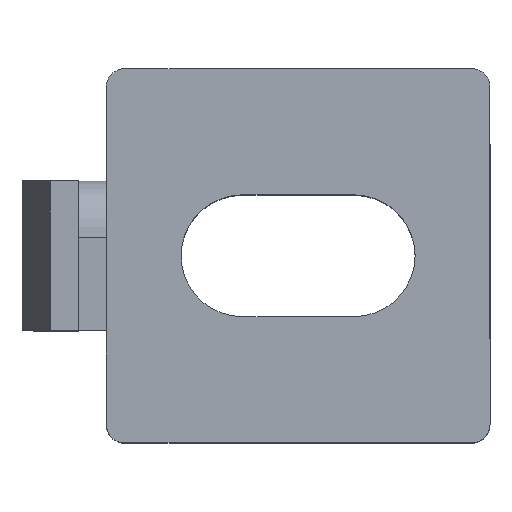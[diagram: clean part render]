
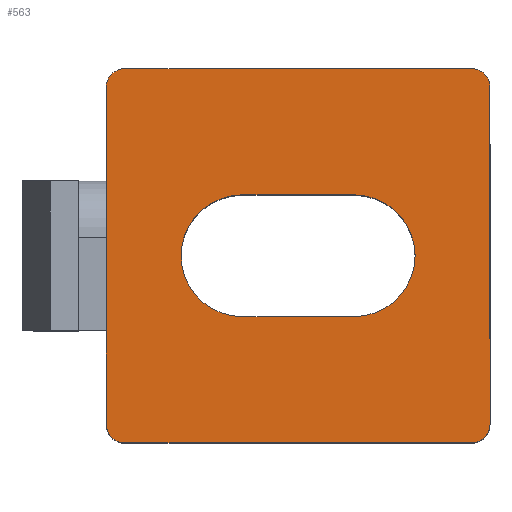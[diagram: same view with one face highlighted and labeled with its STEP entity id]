
A CAD part, top view. The second image highlights one B-rep face of the part: STEP entity #563.
In plain terms, the highlighted planar face has unit normal (0, 0, 1).
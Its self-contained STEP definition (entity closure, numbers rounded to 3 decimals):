
#4 = ORIENTED_EDGE ( 'NONE', *, *, #444, .T. ) ;
#38 = ORIENTED_EDGE ( 'NONE', *, *, #735, .F. ) ;
#43 = EDGE_LOOP ( 'NONE', ( #739, #845, #366, #287, #38 ) ) ;
#55 = DIRECTION ( 'NONE',  ( 1., 0., 0. ) ) ;
#81 = ORIENTED_EDGE ( 'NONE', *, *, #352, .T. ) ;
#86 = ORIENTED_EDGE ( 'NONE', *, *, #321, .T. ) ;
#87 = CARTESIAN_POINT ( 'NONE',  ( -9.25, 10., 8.5 ) ) ;
#113 = CIRCLE ( 'NONE', #386, 3.25 ) ;
#116 = EDGE_LOOP ( 'NONE', ( #4, #1207, #1187, #523, #1165, #81, #405, #86 ) ) ;
#127 = VERTEX_POINT ( 'NONE', #1261 ) ;
#130 = AXIS2_PLACEMENT_3D ( 'NONE', #859, #588, #428 ) ;
#132 = CIRCLE ( 'NONE', #1227, 1. ) ;
#141 = CIRCLE ( 'NONE', #130, 3.25 ) ;
#157 = DIRECTION ( 'NONE',  ( 1., 0., 0. ) ) ;
#172 = CIRCLE ( 'NONE', #813, 1. ) ;
#187 = CARTESIAN_POINT ( 'NONE',  ( -10.25, 9., 8.5 ) ) ;
#195 = CIRCLE ( 'NONE', #247, 1. ) ;
#197 = DIRECTION ( 'NONE',  ( 0., 0., 1. ) ) ;
#204 = CIRCLE ( 'NONE', #552, 3.25 ) ;
#205 = CIRCLE ( 'NONE', #538, 1. ) ;
#234 = EDGE_CURVE ( 'NONE', #775, #936, #733, .T. ) ;
#247 = AXIS2_PLACEMENT_3D ( 'NONE', #759, #621, #463 ) ;
#273 = DIRECTION ( 'NONE',  ( 1., 0., 0. ) ) ;
#274 = EDGE_CURVE ( 'NONE', #908, #371, #1107, .T. ) ;
#287 = ORIENTED_EDGE ( 'NONE', *, *, #234, .F. ) ;
#306 = CARTESIAN_POINT ( 'NONE',  ( -10.25, -10., 8.5 ) ) ;
#321 = EDGE_CURVE ( 'NONE', #335, #1033, #205, .T. ) ;
#335 = VERTEX_POINT ( 'NONE', #87 ) ;
#337 = VERTEX_POINT ( 'NONE', #788 ) ;
#341 = CARTESIAN_POINT ( 'NONE',  ( -10.25, -9., 8.5 ) ) ;
#343 = EDGE_CURVE ( 'NONE', #936, #127, #204, .T. ) ;
#351 = CARTESIAN_POINT ( 'NONE',  ( -3., 0., 8.5 ) ) ;
#352 = EDGE_CURVE ( 'NONE', #371, #514, #195, .T. ) ;
#366 = ORIENTED_EDGE ( 'NONE', *, *, #343, .F. ) ;
#371 = VERTEX_POINT ( 'NONE', #926 ) ;
#386 = AXIS2_PLACEMENT_3D ( 'NONE', #1242, #1130, #1017 ) ;
#405 = ORIENTED_EDGE ( 'NONE', *, *, #497, .T. ) ;
#408 = VECTOR ( 'NONE', #872, 1000. ) ;
#421 = DIRECTION ( 'NONE',  ( 0., 0., 1. ) ) ;
#428 = DIRECTION ( 'NONE',  ( 1., 0., 0. ) ) ;
#435 = DIRECTION ( 'NONE',  ( -1., 0., 0. ) ) ;
#444 = EDGE_CURVE ( 'NONE', #1033, #1030, #1056, .T. ) ;
#454 = CARTESIAN_POINT ( 'NONE',  ( -9.25, 9., 8.5 ) ) ;
#457 = LINE ( 'NONE', #306, #761 ) ;
#463 = DIRECTION ( 'NONE',  ( 1., 0., 0. ) ) ;
#486 = VERTEX_POINT ( 'NONE', #975 ) ;
#497 = EDGE_CURVE ( 'NONE', #514, #335, #1175, .T. ) ;
#502 = CARTESIAN_POINT ( 'NONE',  ( 9.25, 10., 8.5 ) ) ;
#507 = EDGE_CURVE ( 'NONE', #1030, #486, #172, .T. ) ;
#514 = VERTEX_POINT ( 'NONE', #502 ) ;
#523 = ORIENTED_EDGE ( 'NONE', *, *, #678, .T. ) ;
#538 = AXIS2_PLACEMENT_3D ( 'NONE', #454, #1201, #1089 ) ;
#552 = AXIS2_PLACEMENT_3D ( 'NONE', #351, #197, #55 ) ;
#555 = EDGE_CURVE ( 'NONE', #486, #337, #457, .T. ) ;
#558 = DIRECTION ( 'NONE',  ( 1., 0., 0. ) ) ;
#563 = ADVANCED_FACE ( 'NONE', ( #1254, #892 ), #1091, .T. ) ;
#569 = VERTEX_POINT ( 'NONE', #821 ) ;
#579 = CARTESIAN_POINT ( 'NONE',  ( 0., 0., 8.5 ) ) ;
#586 = VECTOR ( 'NONE', #811, 1000. ) ;
#588 = DIRECTION ( 'NONE',  ( 0., 0., 1. ) ) ;
#592 = CARTESIAN_POINT ( 'NONE',  ( -3., 3.25, 8.5 ) ) ;
#613 = EDGE_CURVE ( 'NONE', #127, #569, #141, .T. ) ;
#621 = DIRECTION ( 'NONE',  ( 0., 0., 1. ) ) ;
#644 = VECTOR ( 'NONE', #949, 1000. ) ;
#661 = EDGE_CURVE ( 'NONE', #569, #1255, #1103, .T. ) ;
#678 = EDGE_CURVE ( 'NONE', #337, #908, #132, .T. ) ;
#679 = CARTESIAN_POINT ( 'NONE',  ( -3., 3.25, 8.5 ) ) ;
#708 = DIRECTION ( 'NONE',  ( 0., 0., 1. ) ) ;
#718 = CARTESIAN_POINT ( 'NONE',  ( 3., -3.25, 8.5 ) ) ;
#733 = LINE ( 'NONE', #592, #1213 ) ;
#735 = EDGE_CURVE ( 'NONE', #1255, #775, #113, .T. ) ;
#739 = ORIENTED_EDGE ( 'NONE', *, *, #661, .F. ) ;
#759 = CARTESIAN_POINT ( 'NONE',  ( 9.25, 9., 8.5 ) ) ;
#761 = VECTOR ( 'NONE', #157, 1000. ) ;
#775 = VERTEX_POINT ( 'NONE', #871 ) ;
#788 = CARTESIAN_POINT ( 'NONE',  ( 9.25, -10., 8.5 ) ) ;
#811 = DIRECTION ( 'NONE',  ( 0., -1., 0. ) ) ;
#813 = AXIS2_PLACEMENT_3D ( 'NONE', #820, #1146, #1036 ) ;
#820 = CARTESIAN_POINT ( 'NONE',  ( -9.25, -9., 8.5 ) ) ;
#821 = CARTESIAN_POINT ( 'NONE',  ( -3., -3.25, 8.5 ) ) ;
#845 = ORIENTED_EDGE ( 'NONE', *, *, #613, .F. ) ;
#859 = CARTESIAN_POINT ( 'NONE',  ( -3., 0., 8.5 ) ) ;
#866 = DIRECTION ( 'NONE',  ( 1., 0., 0. ) ) ;
#871 = CARTESIAN_POINT ( 'NONE',  ( 3., 3.25, 8.5 ) ) ;
#872 = DIRECTION ( 'NONE',  ( 0., 1., 0. ) ) ;
#892 = FACE_BOUND ( 'NONE', #43, .T. ) ;
#908 = VERTEX_POINT ( 'NONE', #1166 ) ;
#922 = AXIS2_PLACEMENT_3D ( 'NONE', #579, #421, #273 ) ;
#926 = CARTESIAN_POINT ( 'NONE',  ( 10.25, 9., 8.5 ) ) ;
#936 = VERTEX_POINT ( 'NONE', #679 ) ;
#941 = CARTESIAN_POINT ( 'NONE',  ( -10.25, 10., 8.5 ) ) ;
#949 = DIRECTION ( 'NONE',  ( -1., 0., 0. ) ) ;
#975 = CARTESIAN_POINT ( 'NONE',  ( -9.25, -10., 8.5 ) ) ;
#986 = CARTESIAN_POINT ( 'NONE',  ( -3., -3.25, 8.5 ) ) ;
#991 = CARTESIAN_POINT ( 'NONE',  ( 10.25, 10., 8.5 ) ) ;
#1017 = DIRECTION ( 'NONE',  ( 1., 0., 0. ) ) ;
#1026 = VECTOR ( 'NONE', #866, 1000. ) ;
#1030 = VERTEX_POINT ( 'NONE', #341 ) ;
#1033 = VERTEX_POINT ( 'NONE', #187 ) ;
#1036 = DIRECTION ( 'NONE',  ( 1., 0., 0. ) ) ;
#1056 = LINE ( 'NONE', #941, #586 ) ;
#1065 = CARTESIAN_POINT ( 'NONE',  ( -10.25, 10., 8.5 ) ) ;
#1089 = DIRECTION ( 'NONE',  ( 1., 0., 0. ) ) ;
#1091 = PLANE ( 'NONE',  #922 ) ;
#1103 = LINE ( 'NONE', #986, #1026 ) ;
#1107 = LINE ( 'NONE', #991, #408 ) ;
#1130 = DIRECTION ( 'NONE',  ( 0., 0., 1. ) ) ;
#1146 = DIRECTION ( 'NONE',  ( 0., 0., 1. ) ) ;
#1165 = ORIENTED_EDGE ( 'NONE', *, *, #274, .T. ) ;
#1166 = CARTESIAN_POINT ( 'NONE',  ( 10.25, -9., 8.5 ) ) ;
#1175 = LINE ( 'NONE', #1065, #644 ) ;
#1186 = CARTESIAN_POINT ( 'NONE',  ( 9.25, -9., 8.5 ) ) ;
#1187 = ORIENTED_EDGE ( 'NONE', *, *, #555, .T. ) ;
#1201 = DIRECTION ( 'NONE',  ( 0., 0., 1. ) ) ;
#1207 = ORIENTED_EDGE ( 'NONE', *, *, #507, .T. ) ;
#1213 = VECTOR ( 'NONE', #435, 1000. ) ;
#1227 = AXIS2_PLACEMENT_3D ( 'NONE', #1186, #708, #558 ) ;
#1242 = CARTESIAN_POINT ( 'NONE',  ( 3., 0., 8.5 ) ) ;
#1254 = FACE_OUTER_BOUND ( 'NONE', #116, .T. ) ;
#1255 = VERTEX_POINT ( 'NONE', #718 ) ;
#1261 = CARTESIAN_POINT ( 'NONE',  ( -6.25, 0., 8.5 ) ) ;
